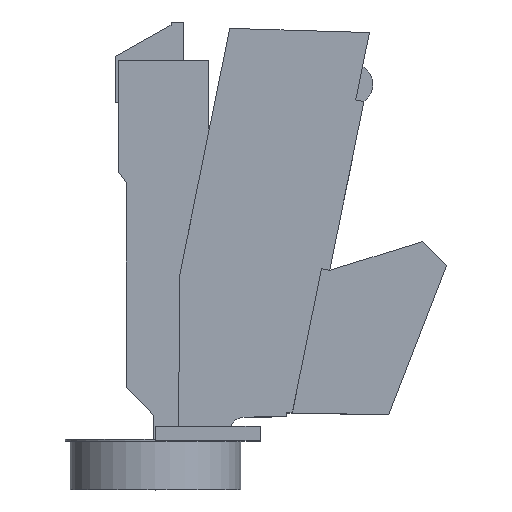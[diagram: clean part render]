
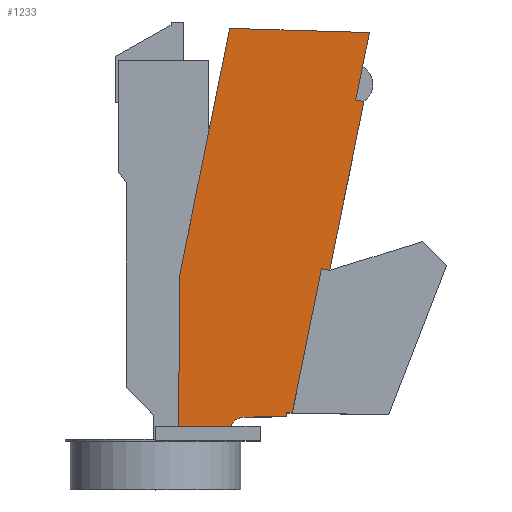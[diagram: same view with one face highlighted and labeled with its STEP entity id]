
A CAD part, top view. The second image highlights one B-rep face of the part: STEP entity #1233.
In plain terms, the highlighted planar face has unit normal (0, 0, 1).
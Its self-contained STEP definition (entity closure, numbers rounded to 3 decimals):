
#30 = VECTOR ( 'NONE', #781, 1000. ) ;
#38 = DIRECTION ( 'NONE',  ( 1., 0., 0. ) ) ;
#54 = CARTESIAN_POINT ( 'NONE',  ( 16.742, -35.5, 12.1 ) ) ;
#73 = EDGE_CURVE ( 'NONE', #393, #1763, #2002, .T. ) ;
#84 = DIRECTION ( 'NONE',  ( 0.199, 0.98, 0. ) ) ;
#91 = DIRECTION ( 'NONE',  ( 0.98, -0.199, 0. ) ) ;
#141 = ORIENTED_EDGE ( 'NONE', *, *, #73, .F. ) ;
#160 = LINE ( 'NONE', #925, #30 ) ;
#186 = VECTOR ( 'NONE', #1756, 1000. ) ;
#237 = CARTESIAN_POINT ( 'NONE',  ( 11.108, 4.016, 12.1 ) ) ;
#277 = EDGE_CURVE ( 'NONE', #732, #1657, #878, .T. ) ;
#287 = ORIENTED_EDGE ( 'NONE', *, *, #277, .T. ) ;
#288 = LINE ( 'NONE', #1520, #1802 ) ;
#312 = CARTESIAN_POINT ( 'NONE',  ( 17.02, -4.22, 12.1 ) ) ;
#355 = LINE ( 'NONE', #466, #946 ) ;
#375 = EDGE_CURVE ( 'NONE', #1657, #1353, #1979, .T. ) ;
#393 = VERTEX_POINT ( 'NONE', #1236 ) ;
#433 = LINE ( 'NONE', #581, #1134 ) ;
#436 = ORIENTED_EDGE ( 'NONE', *, *, #1007, .T. ) ;
#440 = VERTEX_POINT ( 'NONE', #761 ) ;
#448 = DIRECTION ( 'NONE',  ( 1., 0., 0. ) ) ;
#466 = CARTESIAN_POINT ( 'NONE',  ( 55.963, 45.41, 12.1 ) ) ;
#496 = CARTESIAN_POINT ( 'NONE',  ( 27.451, -35.5, 12.1 ) ) ;
#523 = ORIENTED_EDGE ( 'NONE', *, *, #1508, .T. ) ;
#545 = CARTESIAN_POINT ( 'NONE',  ( 55.963, 45.41, 12.1 ) ) ;
#569 = DIRECTION ( 'NONE',  ( 0., 1., 0. ) ) ;
#570 = DIRECTION ( 'NONE',  ( 0.199, 0.98, 0. ) ) ;
#572 = VECTOR ( 'NONE', #674, 1000. ) ;
#579 = CARTESIAN_POINT ( 'NONE',  ( 16.715, -38.5, 12.1 ) ) ;
#581 = CARTESIAN_POINT ( 'NONE',  ( 38.88, -33.48, 12.1 ) ) ;
#636 = EDGE_CURVE ( 'NONE', #440, #1763, #1155, .T. ) ;
#640 = ORIENTED_EDGE ( 'NONE', *, *, #740, .F. ) ;
#659 = ORIENTED_EDGE ( 'NONE', *, *, #1866, .T. ) ;
#674 = DIRECTION ( 'NONE',  ( -0.199, -0.98, 0. ) ) ;
#732 = VERTEX_POINT ( 'NONE', #875 ) ;
#740 = EDGE_CURVE ( 'NONE', #1648, #393, #865, .T. ) ;
#761 = CARTESIAN_POINT ( 'NONE',  ( 46.123, -3.089, 12.1 ) ) ;
#766 = EDGE_CURVE ( 'NONE', #1353, #963, #288, .T. ) ;
#781 = DIRECTION ( 'NONE',  ( 1., 0.012, 0. ) ) ;
#782 = ORIENTED_EDGE ( 'NONE', *, *, #1465, .T. ) ;
#817 = VECTOR ( 'NONE', #84, 1000. ) ;
#820 = FACE_OUTER_BOUND ( 'NONE', #1226, .T. ) ;
#836 = ORIENTED_EDGE ( 'NONE', *, *, #766, .T. ) ;
#837 = CARTESIAN_POINT ( 'NONE',  ( 30.249, -36.58, 12.1 ) ) ;
#865 = LINE ( 'NONE', #1471, #1417 ) ;
#875 = CARTESIAN_POINT ( 'NONE',  ( 27.265, 46.272, 12.1 ) ) ;
#878 = LINE ( 'NONE', #1340, #572 ) ;
#880 = EDGE_CURVE ( 'NONE', #1303, #1024, #1987, .T. ) ;
#911 = AXIS2_PLACEMENT_3D ( 'NONE', #837, #1449, #1635 ) ;
#925 = CARTESIAN_POINT ( 'NONE',  ( 30.215, -33.58, 12.1 ) ) ;
#946 = VECTOR ( 'NONE', #1748, 1000. ) ;
#952 = CARTESIAN_POINT ( 'NONE',  ( 38.88, -32.715, 12.1 ) ) ;
#955 = EDGE_CURVE ( 'NONE', #1090, #1542, #160, .T. ) ;
#963 = VERTEX_POINT ( 'NONE', #496 ) ;
#970 = VECTOR ( 'NONE', #1395, 1000. ) ;
#988 = CARTESIAN_POINT ( 'NONE',  ( 54.553, 38.462, 12.1 ) ) ;
#1007 = EDGE_CURVE ( 'NONE', #1648, #1396, #1008, .T. ) ;
#1008 = LINE ( 'NONE', #1434, #1033 ) ;
#1024 = VERTEX_POINT ( 'NONE', #1916 ) ;
#1033 = VECTOR ( 'NONE', #570, 1000. ) ;
#1044 = ORIENTED_EDGE ( 'NONE', *, *, #955, .T. ) ;
#1069 = DIRECTION ( 'NONE',  ( -0.199, -0.98, 0. ) ) ;
#1075 = DIRECTION ( 'NONE',  ( -0.009, -1., 0. ) ) ;
#1086 = PLANE ( 'NONE',  #1128 ) ;
#1090 = VERTEX_POINT ( 'NONE', #1764 ) ;
#1128 = AXIS2_PLACEMENT_3D ( 'NONE', #1855, #1867, #38 ) ;
#1134 = VECTOR ( 'NONE', #569, 1000. ) ;
#1155 = LINE ( 'NONE', #237, #186 ) ;
#1187 = VECTOR ( 'NONE', #1069, 1000. ) ;
#1226 = EDGE_LOOP ( 'NONE', ( #1463, #836, #782, #1044, #523, #1532, #659, #1884, #141, #640, #436, #1337, #287 ) ) ;
#1233 = ADVANCED_FACE ( 'NONE', ( #820 ), #1086, .T. ) ;
#1236 = CARTESIAN_POINT ( 'NONE',  ( 54.823, 31.244, 12.1 ) ) ;
#1303 = VERTEX_POINT ( 'NONE', #952 ) ;
#1337 = ORIENTED_EDGE ( 'NONE', *, *, #1774, .T. ) ;
#1340 = CARTESIAN_POINT ( 'NONE',  ( 27.265, 46.272, 12.1 ) ) ;
#1353 = VERTEX_POINT ( 'NONE', #54 ) ;
#1395 = DIRECTION ( 'NONE',  ( 1., -0.017, 0. ) ) ;
#1396 = VERTEX_POINT ( 'NONE', #545 ) ;
#1413 = VECTOR ( 'NONE', #1075, 1000. ) ;
#1417 = VECTOR ( 'NONE', #91, 1000. ) ;
#1428 = CARTESIAN_POINT ( 'NONE',  ( 47.789, -3.427, 12.1 ) ) ;
#1434 = CARTESIAN_POINT ( 'NONE',  ( 54.553, 38.462, 12.1 ) ) ;
#1449 = DIRECTION ( 'NONE',  ( 0., 0., -1. ) ) ;
#1463 = ORIENTED_EDGE ( 'NONE', *, *, #375, .T. ) ;
#1465 = EDGE_CURVE ( 'NONE', #963, #1090, #1650, .T. ) ;
#1471 = CARTESIAN_POINT ( 'NONE',  ( 18.143, 38.686, 12.1 ) ) ;
#1508 = EDGE_CURVE ( 'NONE', #1542, #1303, #433, .T. ) ;
#1520 = CARTESIAN_POINT ( 'NONE',  ( 12., -35.5, 12.1 ) ) ;
#1532 = ORIENTED_EDGE ( 'NONE', *, *, #880, .T. ) ;
#1542 = VERTEX_POINT ( 'NONE', #1969 ) ;
#1632 = LINE ( 'NONE', #988, #817 ) ;
#1635 = DIRECTION ( 'NONE',  ( 1., 0., 0. ) ) ;
#1648 = VERTEX_POINT ( 'NONE', #1720 ) ;
#1650 = CIRCLE ( 'NONE', #911, 3. ) ;
#1657 = VERTEX_POINT ( 'NONE', #312 ) ;
#1720 = CARTESIAN_POINT ( 'NONE',  ( 53.157, 31.582, 12.1 ) ) ;
#1748 = DIRECTION ( 'NONE',  ( -1., 0.03, 0. ) ) ;
#1756 = DIRECTION ( 'NONE',  ( 0.98, -0.199, 0. ) ) ;
#1763 = VERTEX_POINT ( 'NONE', #1428 ) ;
#1764 = CARTESIAN_POINT ( 'NONE',  ( 30.215, -33.58, 12.1 ) ) ;
#1774 = EDGE_CURVE ( 'NONE', #1396, #732, #355, .T. ) ;
#1802 = VECTOR ( 'NONE', #448, 1000. ) ;
#1855 = CARTESIAN_POINT ( 'NONE',  ( 52.387, 34.766, 12.1 ) ) ;
#1866 = EDGE_CURVE ( 'NONE', #1024, #440, #1632, .T. ) ;
#1867 = DIRECTION ( 'NONE',  ( 0., 0., 1. ) ) ;
#1884 = ORIENTED_EDGE ( 'NONE', *, *, #636, .T. ) ;
#1916 = CARTESIAN_POINT ( 'NONE',  ( 40.107, -32.736, 12.1 ) ) ;
#1969 = CARTESIAN_POINT ( 'NONE',  ( 38.88, -33.48, 12.1 ) ) ;
#1979 = LINE ( 'NONE', #579, #1413 ) ;
#1987 = LINE ( 'NONE', #1994, #970 ) ;
#1992 = CARTESIAN_POINT ( 'NONE',  ( 47.789, -3.427, 12.1 ) ) ;
#1994 = CARTESIAN_POINT ( 'NONE',  ( 38.88, -32.715, 12.1 ) ) ;
#2002 = LINE ( 'NONE', #1992, #1187 ) ;
